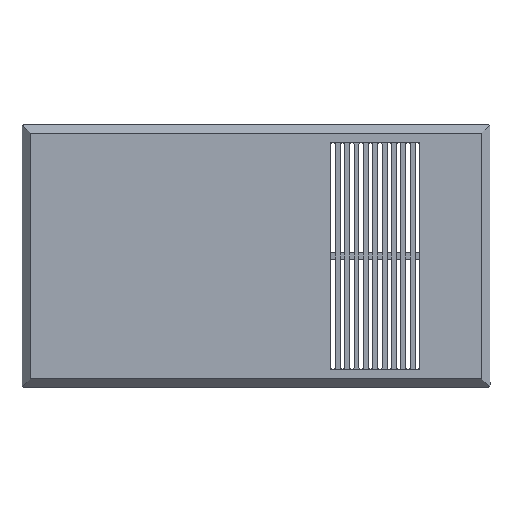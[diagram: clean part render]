
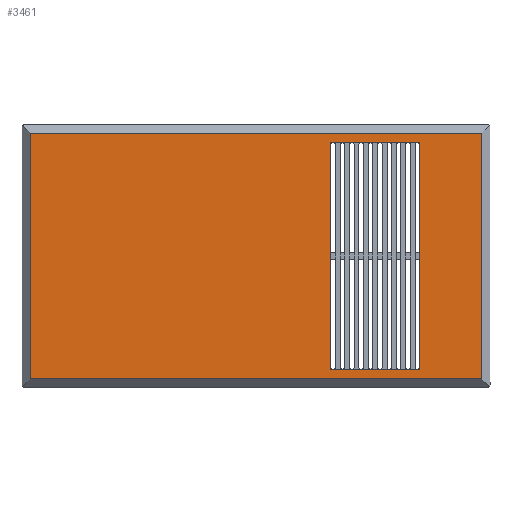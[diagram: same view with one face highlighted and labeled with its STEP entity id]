
A CAD part, front view. The second image highlights one B-rep face of the part: STEP entity #3461.
In plain terms, the highlighted planar face has unit normal (0, -1, 0).
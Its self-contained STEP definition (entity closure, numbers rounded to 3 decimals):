
#81 = CARTESIAN_POINT ( 'NONE',  ( -96.5, 0., -56. ) ) ;
#86 = CARTESIAN_POINT ( 'NONE',  ( 31.88, 0., -48.55 ) ) ;
#132 = VERTEX_POINT ( 'NONE', #4958 ) ;
#338 = VECTOR ( 'NONE', #2159, 1000. ) ;
#384 = CARTESIAN_POINT ( 'NONE',  ( 96.5, 0., -52.5 ) ) ;
#414 = DIRECTION ( 'NONE',  ( 0., -1., 0. ) ) ;
#425 = EDGE_CURVE ( 'NONE', #1005, #1931, #3814, .T. ) ;
#447 = VECTOR ( 'NONE', #4273, 1000. ) ;
#478 = LINE ( 'NONE', #81, #338 ) ;
#513 = CARTESIAN_POINT ( 'NONE',  ( 31.88, 0., 48.55 ) ) ;
#744 = CARTESIAN_POINT ( 'NONE',  ( 31.88, 0., 48.55 ) ) ;
#920 = CARTESIAN_POINT ( 'NONE',  ( -96.5, 0., 52.5 ) ) ;
#940 = DIRECTION ( 'NONE',  ( -1., 0., 0. ) ) ;
#1005 = VERTEX_POINT ( 'NONE', #384 ) ;
#1103 = ORIENTED_EDGE ( 'NONE', *, *, #4340, .T. ) ;
#1211 = EDGE_CURVE ( 'NONE', #1931, #3249, #2420, .T. ) ;
#1312 = VECTOR ( 'NONE', #4352, 1000. ) ;
#1328 = DIRECTION ( 'NONE',  ( 0., 0., 1. ) ) ;
#1360 = VECTOR ( 'NONE', #1774, 1000. ) ;
#1441 = VERTEX_POINT ( 'NONE', #5012 ) ;
#1470 = ORIENTED_EDGE ( 'NONE', *, *, #3542, .F. ) ;
#1689 = VERTEX_POINT ( 'NONE', #1920 ) ;
#1696 = LINE ( 'NONE', #3849, #447 ) ;
#1741 = CARTESIAN_POINT ( 'NONE',  ( 70., 0., 48.55 ) ) ;
#1774 = DIRECTION ( 'NONE',  ( 0., 0., -1. ) ) ;
#1920 = CARTESIAN_POINT ( 'NONE',  ( 70., 0., 48.55 ) ) ;
#1931 = VERTEX_POINT ( 'NONE', #4320 ) ;
#1979 = ORIENTED_EDGE ( 'NONE', *, *, #1981, .F. ) ;
#1981 = EDGE_CURVE ( 'NONE', #4458, #2441, #3615, .T. ) ;
#2086 = CARTESIAN_POINT ( 'NONE',  ( 0., 0., 0. ) ) ;
#2099 = EDGE_LOOP ( 'NONE', ( #1979, #5424, #1470, #5270 ) ) ;
#2159 = DIRECTION ( 'NONE',  ( 0., 0., -1. ) ) ;
#2211 = VECTOR ( 'NONE', #2594, 1000. ) ;
#2240 = VECTOR ( 'NONE', #1328, 1000. ) ;
#2344 = LINE ( 'NONE', #1741, #3351 ) ;
#2420 = LINE ( 'NONE', #3923, #1312 ) ;
#2441 = VERTEX_POINT ( 'NONE', #3166 ) ;
#2594 = DIRECTION ( 'NONE',  ( 1., 0., 0. ) ) ;
#2859 = EDGE_CURVE ( 'NONE', #3249, #1441, #478, .T. ) ;
#2878 = FACE_BOUND ( 'NONE', #2099, .T. ) ;
#3100 = LINE ( 'NONE', #513, #4092 ) ;
#3166 = CARTESIAN_POINT ( 'NONE',  ( 31.88, 0., -48.55 ) ) ;
#3239 = ORIENTED_EDGE ( 'NONE', *, *, #1211, .T. ) ;
#3249 = VERTEX_POINT ( 'NONE', #920 ) ;
#3351 = VECTOR ( 'NONE', #4302, 1000. ) ;
#3381 = DIRECTION ( 'NONE',  ( 0., 0., -1. ) ) ;
#3461 = ADVANCED_FACE ( 'NONE', ( #2878, #4031 ), #3763, .T. ) ;
#3542 = EDGE_CURVE ( 'NONE', #132, #1689, #2344, .T. ) ;
#3604 = EDGE_CURVE ( 'NONE', #1689, #4458, #3100, .T. ) ;
#3615 = LINE ( 'NONE', #5155, #1360 ) ;
#3763 = PLANE ( 'NONE',  #5028 ) ;
#3814 = LINE ( 'NONE', #4720, #2240 ) ;
#3849 = CARTESIAN_POINT ( 'NONE',  ( 100., 0., -52.5 ) ) ;
#3923 = CARTESIAN_POINT ( 'NONE',  ( -100., 0., 52.5 ) ) ;
#4031 = FACE_OUTER_BOUND ( 'NONE', #4471, .T. ) ;
#4064 = ORIENTED_EDGE ( 'NONE', *, *, #425, .T. ) ;
#4092 = VECTOR ( 'NONE', #940, 1000. ) ;
#4273 = DIRECTION ( 'NONE',  ( 1., 0., 0. ) ) ;
#4302 = DIRECTION ( 'NONE',  ( 0., 0., 1. ) ) ;
#4320 = CARTESIAN_POINT ( 'NONE',  ( 96.5, 0., 52.5 ) ) ;
#4340 = EDGE_CURVE ( 'NONE', #1441, #1005, #1696, .T. ) ;
#4352 = DIRECTION ( 'NONE',  ( -1., 0., 0. ) ) ;
#4458 = VERTEX_POINT ( 'NONE', #744 ) ;
#4471 = EDGE_LOOP ( 'NONE', ( #3239, #5341, #1103, #4064 ) ) ;
#4720 = CARTESIAN_POINT ( 'NONE',  ( 96.5, 0., 56. ) ) ;
#4958 = CARTESIAN_POINT ( 'NONE',  ( 70., 0., -48.55 ) ) ;
#5012 = CARTESIAN_POINT ( 'NONE',  ( -96.5, 0., -52.5 ) ) ;
#5028 = AXIS2_PLACEMENT_3D ( 'NONE', #2086, #414, #3381 ) ;
#5111 = EDGE_CURVE ( 'NONE', #2441, #132, #5438, .T. ) ;
#5155 = CARTESIAN_POINT ( 'NONE',  ( 31.88, 0., 48.55 ) ) ;
#5270 = ORIENTED_EDGE ( 'NONE', *, *, #5111, .F. ) ;
#5341 = ORIENTED_EDGE ( 'NONE', *, *, #2859, .T. ) ;
#5424 = ORIENTED_EDGE ( 'NONE', *, *, #3604, .F. ) ;
#5438 = LINE ( 'NONE', #86, #2211 ) ;
